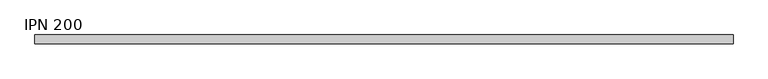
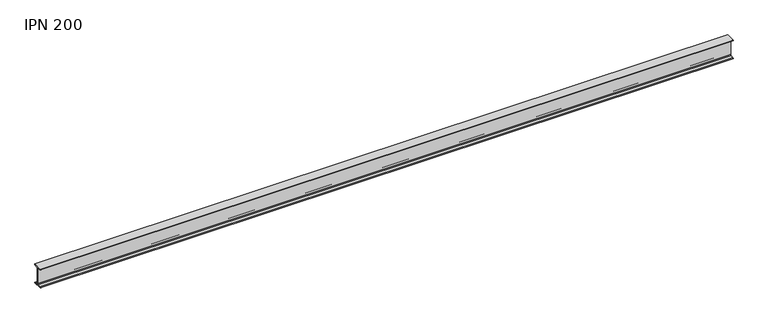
"""IFC4 building model written with IfcOpenShell, lengths in millimetres: beam geometry, IPN - Secciones en I con alas cónicas : IPN 200."""

import ifcopenshell
import ifcopenshell.guid

model = None  # the IFC model being written
_history = None  # IfcOwnerHistory: only IFC2X3 demands one
_inside = {}  # id of a spatial element -> (the spatial element, [elements in it])
_under = {}  # id of a project, library or spatial element -> (it, [spatial elements below it])
_declared = {}  # id of a project -> (the project, [libraries it declares])
_typed = {}  # id of a type object -> (the type object, [elements of that type])
_made_of = {}  # id of a material, layer set ... -> (it, [elements and type objects made of it])


def new_model(schema):
    """Start an empty IFC model of exactly this schema.

    Asked for "IFC4X3", IfcOpenShell would pick the latest addendum, in which some entities
    have other attributes; the version numbers below select the first issue.
    IFC2X3 requires an IfcOwnerHistory on every rooted entity: one is made here for all.
    """
    global model, _history
    if schema == "IFC4X3":
        model = ifcopenshell.file(schema_version=(4, 3, 0, 0))
    else:
        model = ifcopenshell.file(schema=schema)
    _inside.clear()
    _under.clear()
    _declared.clear()
    _typed.clear()
    _made_of.clear()
    _history = None
    if model.schema == "IFC2X3":
        org = make("IfcOrganization", Name="unknown")
        user = make(
            "IfcPersonAndOrganization",
            ThePerson=make("IfcPerson", FamilyName="unknown"),
            TheOrganization=org,
        )
        app = make(
            "IfcApplication",
            ApplicationDeveloper=org,
            Version="unknown",
            ApplicationFullName="unknown",
            ApplicationIdentifier="unknown",
        )
        _history = make(
            "IfcOwnerHistory",
            OwningUser=user,
            OwningApplication=app,
            ChangeAction="ADDED",
            CreationDate=0,
        )
    return model


def make(cls, **values):
    """One entity of the class cls with the attributes given. An attribute that is None is left unset."""
    return model.create_entity(
        cls, **{name: value for name, value in values.items() if value is not None}
    )


def rooted(cls, **values):
    """An entity with a GlobalId (a new one), such as an element, a storey or a relation."""
    return make(cls, GlobalId=ifcopenshell.guid.new(), OwnerHistory=_history, **values)


def si_unit(unit_type, name, prefix=None):
    """IfcSIUnit, for example si_unit("LENGTHUNIT", "METRE", prefix="MILLI")."""
    return make("IfcSIUnit", UnitType=unit_type, Prefix=prefix, Name=name)


def assignment(units):
    """IfcUnitAssignment: the units of a project."""
    return None if units is None else make("IfcUnitAssignment", Units=units)


def point(xyz):
    """IfcCartesianPoint."""
    return None if xyz is None else make("IfcCartesianPoint", Coordinates=xyz)


def direction(xyz):
    """IfcDirection."""
    return None if xyz is None else make("IfcDirection", DirectionRatios=xyz)


def frame(location, z_axis=None, x_axis=None):
    """IfcAxis2Placement3D, a coordinate frame: its origin and axes. An axis left out is left unset."""
    return make(
        "IfcAxis2Placement3D",
        Location=point(location),
        Axis=direction(z_axis),
        RefDirection=direction(x_axis),
    )


def frame_2d(location, x_axis=None):
    """IfcAxis2Placement2D, a coordinate frame in the plane: its origin and x axis."""
    return make(
        "IfcAxis2Placement2D", Location=point(location), RefDirection=direction(x_axis)
    )


def origin():
    """The frame at (0, 0, 0) with its axes left unset."""
    return frame((0.0, 0.0, 0.0))


def place(relative_to, where):
    """IfcLocalPlacement: puts the frame where relative to a parent placement (None: the world)."""
    return make(
        "IfcLocalPlacement", PlacementRelTo=relative_to, RelativePlacement=where
    )


def context(
    kind, dimensions, precision=None, world=None, true_north=None, identifier=None
):
    """IfcGeometricRepresentationContext, for example the 3D "Model" context."""
    return make(
        "IfcGeometricRepresentationContext",
        ContextIdentifier=identifier,
        ContextType=kind,
        CoordinateSpaceDimension=dimensions,
        Precision=precision,
        WorldCoordinateSystem=world,
        TrueNorth=true_north,
    )


def project(units=None, contexts=None):
    """IfcProject with its units and contexts."""
    return rooted(
        "IfcProject",
        Name="project",
        RepresentationContexts=contexts,
        UnitsInContext=assignment(units),
    )


def spatial(cls, under=None, at=None, **own):
    """A site, building, storey or space (cls), placed at a placement, below another one or the project."""
    s = rooted(cls, ObjectPlacement=at, **own)
    if under is not None:
        _under.setdefault(under.id(), (under, []))[1].append(s)
    return s


def polyline(points):
    """IfcPolyline through the points."""
    return make("IfcPolyline", Points=[point(p) for p in points])


def circle_curve(where, radius):
    """IfcCircle in the frame where."""
    return make("IfcCircle", Position=where, Radius=radius)


def trimmed(basis, trim1, trim2, sense, master):
    """IfcTrimmedCurve: the piece of a basis curve between two trims."""
    return make(
        "IfcTrimmedCurve",
        BasisCurve=basis,
        Trim1=trim1,
        Trim2=trim2,
        SenseAgreement=sense,
        MasterRepresentation=master,
    )


def segment(curve, same_sense, transition):
    """IfcCompositeCurveSegment."""
    return make(
        "IfcCompositeCurveSegment",
        Transition=transition,
        SameSense=same_sense,
        ParentCurve=curve,
    )


def composite_curve(segments, self_intersect=None):
    """IfcCompositeCurve: segments joined end to end."""
    return make("IfcCompositeCurve", Segments=segments, SelfIntersect=self_intersect)


def outline(outer, holes=None, kind="AREA"):
    """IfcArbitraryClosedProfileDef: a profile drawn as a closed curve; with holes, ...WithVoids."""
    if holes is None:
        return make("IfcArbitraryClosedProfileDef", ProfileType=kind, OuterCurve=outer)
    return make(
        "IfcArbitraryProfileDefWithVoids",
        ProfileType=kind,
        OuterCurve=outer,
        InnerCurves=holes,
    )


def extrude(swept, where, along, depth):
    """IfcExtrudedAreaSolid: the profile swept, set in the frame where, extruded along a direction by depth."""
    return make(
        "IfcExtrudedAreaSolid",
        SweptArea=swept,
        Position=where,
        ExtrudedDirection=direction(along),
        Depth=depth,
    )


def shape(context_of_items, identifier, shape_type, items):
    """IfcShapeRepresentation: the items that make up one representation, for example the "Body"."""
    return make(
        "IfcShapeRepresentation",
        ContextOfItems=context_of_items,
        RepresentationIdentifier=identifier,
        RepresentationType=shape_type,
        Items=items,
    )


def source(mapping_origin, context_of_items, identifier, shape_type, items):
    """IfcRepresentationMap: a shape defined once, which mapped items show again and again."""
    return make(
        "IfcRepresentationMap",
        MappingOrigin=mapping_origin,
        MappedRepresentation=shape(context_of_items, identifier, shape_type, items),
    )


def transform(
    local_origin,
    x_axis=None,
    y_axis=None,
    z_axis=None,
    scale=None,
    scale2=None,
    scale3=None,
    uniform=True,
):
    """IfcCartesianTransformationOperator3D, or its non-uniform kind. x_axis, y_axis, z_axis: its Axis1, 2, 3."""
    if uniform:
        return make(
            "IfcCartesianTransformationOperator3D",
            Axis1=direction(x_axis),
            Axis2=direction(y_axis),
            LocalOrigin=point(local_origin),
            Scale=scale,
            Axis3=direction(z_axis),
        )
    return make(
        "IfcCartesianTransformationOperator3DnonUniform",
        Axis1=direction(x_axis),
        Axis2=direction(y_axis),
        LocalOrigin=point(local_origin),
        Scale=scale,
        Axis3=direction(z_axis),
        Scale2=scale2,
        Scale3=scale3,
    )


def mapped(mapping_source, mapping_target):
    """IfcMappedItem: shows the shape of a source again, moved by a transform."""
    return make(
        "IfcMappedItem", MappingSource=mapping_source, MappingTarget=mapping_target
    )


def made_of(thing, what):
    """Note that an element or type object is made of a material, layer set ...; save() writes the relation."""
    if what is not None:
        _made_of.setdefault(what.id(), (what, []))[1].append(thing)
    return thing


def element(
    cls,
    number,
    at=None,
    inside=None,
    cuts=None,
    type_object=None,
    material=None,
    context=None,
    identifier="Body",
    shape_type=None,
    held_by="IfcProductDefinitionShape",
    body=None,
    shapes=None,
    **own,
):
    """One element of the class cls, such as IfcWall. Its Tag is "e" and its number.

    at: its placement. inside: the storey or other place that contains it. cuts: it is an
    opening in that element (IfcRelVoidsElement). A single representation is given by context,
    identifier, shape_type and body (its items); several are given by shapes. held_by: the class
    of the entity that holds the representations. save() writes the other relations.
    """
    e = rooted(cls, Tag="e%d" % number, ObjectPlacement=at, **own)
    if body is not None:
        shapes = [shape(context, identifier, shape_type, body)]
    if shapes is not None:
        e.Representation = make(held_by, Representations=shapes)
    if inside is not None:
        _inside.setdefault(inside.id(), (inside, []))[1].append(e)
    if cuts is not None:
        rooted(
            "IfcRelVoidsElement", RelatingBuildingElement=cuts, RelatedOpeningElement=e
        )
    if type_object is not None:
        _typed.setdefault(type_object.id(), (type_object, []))[1].append(e)
    return made_of(e, material)


def aggregate(whole, parts):
    """IfcRelAggregates: a whole, such as a stair, and the parts it consists of."""
    return rooted("IfcRelAggregates", RelatingObject=whole, RelatedObjects=parts)


def save(model, path):
    """Write the relations noted so far, then the file.

    IfcRelAggregates (storeys below a building ...), IfcRelContainedInSpatialStructure (elements
    in a storey), IfcRelDefinesByType, IfcRelAssociatesMaterial and IfcRelDeclares: one each for
    every whole, place, type object, material and project.
    """
    for whole, parts in _under.values():
        aggregate(whole, parts)
    for where, things in _inside.values():
        rooted(
            "IfcRelContainedInSpatialStructure",
            RelatedElements=things,
            RelatingStructure=where,
        )
    for kind, things in _typed.values():
        rooted("IfcRelDefinesByType", RelatedObjects=things, RelatingType=kind)
    for what, things in _made_of.values():
        rooted("IfcRelAssociatesMaterial", RelatedObjects=things, RelatingMaterial=what)
    for by, libraries in _declared.values():
        rooted("IfcRelDeclares", RelatingContext=by, RelatedDefinitions=libraries)
    model.write(path)


def ipn_200_c3f78f1e(model_context):
    return source(origin(), model_context, "Body", "SweptSolid", [
        extrude(outline(composite_curve([segment(polyline([(45.0, 100.0), (45.0, 95.763886)]), True, "CONTINUOUS"), segment(trimmed(circle_curve(frame_2d((40.5, 95.763886)), 4.5), [point((45.0, 95.763886))], [point((41.1239153, 91.3073481))], False, "CARTESIAN"), True, "CONTINUOUS"), segment(polyline([(41.1239153, 91.3073481), (10.2101412, 86.9794198)]), True, "CONTINUOUS"), segment(trimmed(circle_curve(frame_2d((11.25, 79.5518567)), 7.5), [point((10.2101412, 86.9794198))], [point((3.75, 79.5518567))], True, "CARTESIAN"), True, "CONTINUOUS"), segment(polyline([(3.75, 79.5518567), (3.75, -79.5518567)]), True, "CONTINUOUS"), segment(trimmed(circle_curve(frame_2d((11.25, -79.5518567)), 7.5), [point((3.75, -79.5518567))], [point((10.2101412, -86.9794198))], True, "CARTESIAN"), True, "CONTINUOUS"), segment(polyline([(10.2101412, -86.9794198), (41.1239153, -91.3073481)]), True, "CONTINUOUS"), segment(trimmed(circle_curve(frame_2d((40.5, -95.763886)), 4.5), [point((41.1239153, -91.3073481))], [point((45.0, -95.763886))], False, "CARTESIAN"), True, "CONTINUOUS"), segment(polyline([(45.0, -95.763886), (45.0, -100.0), (-45.0, -100.0), (-45.0, -95.763886)]), True, "CONTINUOUS"), segment(trimmed(circle_curve(frame_2d((-40.5, -95.763886)), 4.5), [point((-45.0, -95.763886))], [point((-41.1239153, -91.3073481))], False, "CARTESIAN"), True, "CONTINUOUS"), segment(polyline([(-41.1239153, -91.3073481), (-10.2101412, -86.9794198)]), True, "CONTINUOUS"), segment(trimmed(circle_curve(frame_2d((-11.25, -79.5518567)), 7.5), [point((-10.2101412, -86.9794198))], [point((-3.75, -79.5518567))], True, "CARTESIAN"), True, "CONTINUOUS"), segment(polyline([(-3.75, -79.5518567), (-3.75, 79.5518567)]), True, "CONTINUOUS"), segment(trimmed(circle_curve(frame_2d((-11.25, 79.5518567)), 7.5), [point((-3.75, 79.5518567))], [point((-10.2101412, 86.9794198))], True, "CARTESIAN"), True, "CONTINUOUS"), segment(polyline([(-10.2101412, 86.9794198), (-41.1239153, 91.3073481)]), True, "CONTINUOUS"), segment(trimmed(circle_curve(frame_2d((-40.5, 95.763886)), 4.5), [point((-41.1239153, 91.3073481))], [point((-45.0, 95.763886))], False, "CARTESIAN"), True, "CONTINUOUS"), segment(polyline([(-45.0, 95.763886), (-45.0, 100.0), (45.0, 100.0)]), True, "CONTINUOUS")], self_intersect=False)), frame((-3401.0, 0.0, 0.0), z_axis=(1.0, 0.0, 0.0), x_axis=(0.0, 1.0, 0.0)), (0.0, 0.0, 1.0), 6946.0),
    ])


if __name__ == "__main__":
    model = new_model("IFC4")
    model_context = context("Model", 3, world=origin())
    ifc_project = project(units=[si_unit("LENGTHUNIT", "METRE", prefix="MILLI")], contexts=[model_context])
    site = spatial("IfcSite", under=ifc_project)
    building = spatial("IfcBuilding", under=site)
    placement = place(None, origin())
    ipn_200_shape = ipn_200_c3f78f1e(model_context)
    element("IfcBeam", 1, ObjectType="IPN - Secciones en I con alas cónicas : IPN 200", at=placement, inside=building, context=model_context, shape_type="MappedRepresentation", body=[
        mapped(ipn_200_shape, transform((0.0, 0.0, 0.0), x_axis=(1.0, 0.0, 0.0), y_axis=(0.0, 1.0, 0.0), z_axis=(0.0, 0.0, 1.0))),
    ])
    save(model, "model.ifc")
